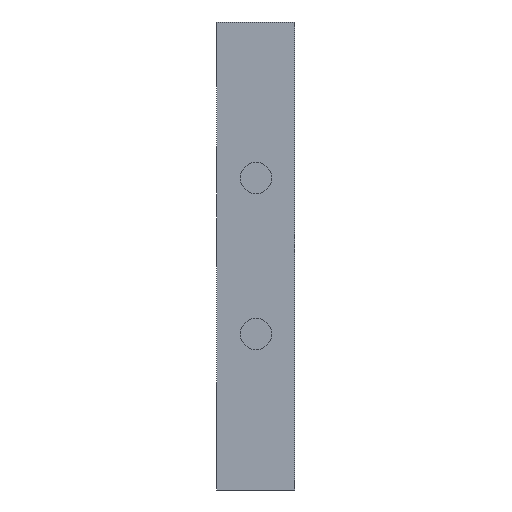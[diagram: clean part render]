
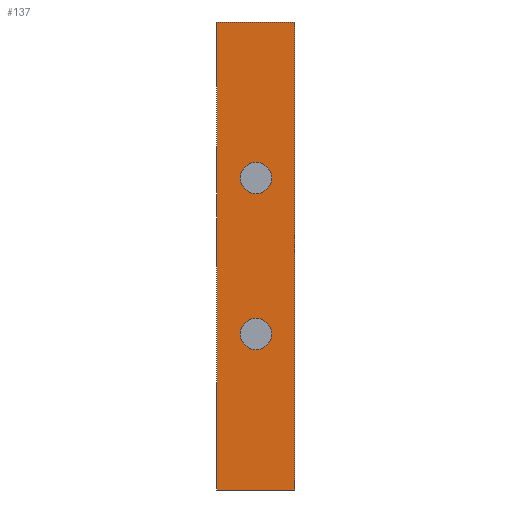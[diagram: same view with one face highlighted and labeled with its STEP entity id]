
A CAD part, front view. The second image highlights one B-rep face of the part: STEP entity #137.
In plain terms, the highlighted planar face has unit normal (0, -1, 0).
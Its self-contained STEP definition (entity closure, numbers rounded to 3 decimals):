
#21 = EDGE_CURVE('',#22,#24,#26,.T.);
#22 = VERTEX_POINT('',#23);
#23 = CARTESIAN_POINT('',(0.,0.,60.));
#24 = VERTEX_POINT('',#25);
#25 = CARTESIAN_POINT('',(10.,0.,60.));
#26 = SURFACE_CURVE('',#27,(#31,#43),.PCURVE_S1.);
#27 = LINE('',#28,#29);
#28 = CARTESIAN_POINT('',(0.,0.,60.));
#29 = VECTOR('',#30,1.);
#30 = DIRECTION('',(1.,0.,0.));
#31 = PCURVE('',#32,#37);
#32 = PLANE('',#33);
#33 = AXIS2_PLACEMENT_3D('',#34,#35,#36);
#34 = CARTESIAN_POINT('',(0.,0.,60.));
#35 = DIRECTION('',(0.,0.,1.));
#36 = DIRECTION('',(0.,1.,0.));
#37 = DEFINITIONAL_REPRESENTATION('',(#38),#42);
#38 = LINE('',#39,#40);
#39 = CARTESIAN_POINT('',(0.,0.));
#40 = VECTOR('',#41,1.);
#41 = DIRECTION('',(0.,-1.));
#42 = ( GEOMETRIC_REPRESENTATION_CONTEXT(2) 
PARAMETRIC_REPRESENTATION_CONTEXT() REPRESENTATION_CONTEXT('2D SPACE',''
  ) );
#43 = PCURVE('',#44,#49);
#44 = PLANE('',#45);
#45 = AXIS2_PLACEMENT_3D('',#46,#47,#48);
#46 = CARTESIAN_POINT('',(0.,0.,0.));
#47 = DIRECTION('',(0.,-1.,0.));
#48 = DIRECTION('',(0.,0.,1.));
#49 = DEFINITIONAL_REPRESENTATION('',(#50),#54);
#50 = LINE('',#51,#52);
#51 = CARTESIAN_POINT('',(60.,0.));
#52 = VECTOR('',#53,1.);
#53 = DIRECTION('',(0.,-1.));
#54 = ( GEOMETRIC_REPRESENTATION_CONTEXT(2) 
PARAMETRIC_REPRESENTATION_CONTEXT() REPRESENTATION_CONTEXT('2D SPACE',''
  ) );
#72 = PLANE('',#73);
#73 = AXIS2_PLACEMENT_3D('',#74,#75,#76);
#74 = CARTESIAN_POINT('',(10.,137.5,30.));
#75 = DIRECTION('',(-1.,0.,0.));
#76 = DIRECTION('',(0.,0.,-1.));
#126 = PLANE('',#127);
#127 = AXIS2_PLACEMENT_3D('',#128,#129,#130);
#128 = CARTESIAN_POINT('',(0.,137.5,30.));
#129 = DIRECTION('',(-1.,0.,0.));
#130 = DIRECTION('',(0.,0.,-1.));
#137 = ADVANCED_FACE('',(#138,#213,#244),#44,.T.);
#138 = FACE_BOUND('',#139,.T.);
#139 = EDGE_LOOP('',(#140,#170,#191,#192));
#140 = ORIENTED_EDGE('',*,*,#141,.T.);
#141 = EDGE_CURVE('',#142,#144,#146,.T.);
#142 = VERTEX_POINT('',#143);
#143 = CARTESIAN_POINT('',(0.,0.,0.));
#144 = VERTEX_POINT('',#145);
#145 = CARTESIAN_POINT('',(10.,0.,0.));
#146 = SURFACE_CURVE('',#147,(#151,#158),.PCURVE_S1.);
#147 = LINE('',#148,#149);
#148 = CARTESIAN_POINT('',(0.,0.,0.));
#149 = VECTOR('',#150,1.);
#150 = DIRECTION('',(1.,0.,0.));
#151 = PCURVE('',#44,#152);
#152 = DEFINITIONAL_REPRESENTATION('',(#153),#157);
#153 = LINE('',#154,#155);
#154 = CARTESIAN_POINT('',(0.,0.));
#155 = VECTOR('',#156,1.);
#156 = DIRECTION('',(0.,-1.));
#157 = ( GEOMETRIC_REPRESENTATION_CONTEXT(2) 
PARAMETRIC_REPRESENTATION_CONTEXT() REPRESENTATION_CONTEXT('2D SPACE',''
  ) );
#158 = PCURVE('',#159,#164);
#159 = PLANE('',#160);
#160 = AXIS2_PLACEMENT_3D('',#161,#162,#163);
#161 = CARTESIAN_POINT('',(0.,275.,0.));
#162 = DIRECTION('',(0.,0.,-1.));
#163 = DIRECTION('',(0.,-1.,0.));
#164 = DEFINITIONAL_REPRESENTATION('',(#165),#169);
#165 = LINE('',#166,#167);
#166 = CARTESIAN_POINT('',(275.,0.));
#167 = VECTOR('',#168,1.);
#168 = DIRECTION('',(0.,-1.));
#169 = ( GEOMETRIC_REPRESENTATION_CONTEXT(2) 
PARAMETRIC_REPRESENTATION_CONTEXT() REPRESENTATION_CONTEXT('2D SPACE',''
  ) );
#170 = ORIENTED_EDGE('',*,*,#171,.T.);
#171 = EDGE_CURVE('',#144,#24,#172,.T.);
#172 = SURFACE_CURVE('',#173,(#177,#184),.PCURVE_S1.);
#173 = LINE('',#174,#175);
#174 = CARTESIAN_POINT('',(10.,0.,0.));
#175 = VECTOR('',#176,1.);
#176 = DIRECTION('',(0.,0.,1.));
#177 = PCURVE('',#44,#178);
#178 = DEFINITIONAL_REPRESENTATION('',(#179),#183);
#179 = LINE('',#180,#181);
#180 = CARTESIAN_POINT('',(0.,-10.));
#181 = VECTOR('',#182,1.);
#182 = DIRECTION('',(1.,0.));
#183 = ( GEOMETRIC_REPRESENTATION_CONTEXT(2) 
PARAMETRIC_REPRESENTATION_CONTEXT() REPRESENTATION_CONTEXT('2D SPACE',''
  ) );
#184 = PCURVE('',#72,#185);
#185 = DEFINITIONAL_REPRESENTATION('',(#186),#190);
#186 = LINE('',#187,#188);
#187 = CARTESIAN_POINT('',(30.,137.5));
#188 = VECTOR('',#189,1.);
#189 = DIRECTION('',(-1.,0.));
#190 = ( GEOMETRIC_REPRESENTATION_CONTEXT(2) 
PARAMETRIC_REPRESENTATION_CONTEXT() REPRESENTATION_CONTEXT('2D SPACE',''
  ) );
#191 = ORIENTED_EDGE('',*,*,#21,.F.);
#192 = ORIENTED_EDGE('',*,*,#193,.F.);
#193 = EDGE_CURVE('',#142,#22,#194,.T.);
#194 = SURFACE_CURVE('',#195,(#199,#206),.PCURVE_S1.);
#195 = LINE('',#196,#197);
#196 = CARTESIAN_POINT('',(0.,0.,0.));
#197 = VECTOR('',#198,1.);
#198 = DIRECTION('',(0.,0.,1.));
#199 = PCURVE('',#44,#200);
#200 = DEFINITIONAL_REPRESENTATION('',(#201),#205);
#201 = LINE('',#202,#203);
#202 = CARTESIAN_POINT('',(0.,0.));
#203 = VECTOR('',#204,1.);
#204 = DIRECTION('',(1.,0.));
#205 = ( GEOMETRIC_REPRESENTATION_CONTEXT(2) 
PARAMETRIC_REPRESENTATION_CONTEXT() REPRESENTATION_CONTEXT('2D SPACE',''
  ) );
#206 = PCURVE('',#126,#207);
#207 = DEFINITIONAL_REPRESENTATION('',(#208),#212);
#208 = LINE('',#209,#210);
#209 = CARTESIAN_POINT('',(30.,137.5));
#210 = VECTOR('',#211,1.);
#211 = DIRECTION('',(-1.,0.));
#212 = ( GEOMETRIC_REPRESENTATION_CONTEXT(2) 
PARAMETRIC_REPRESENTATION_CONTEXT() REPRESENTATION_CONTEXT('2D SPACE',''
  ) );
#213 = FACE_BOUND('',#214,.T.);
#214 = EDGE_LOOP('',(#215));
#215 = ORIENTED_EDGE('',*,*,#216,.F.);
#216 = EDGE_CURVE('',#217,#217,#219,.T.);
#217 = VERTEX_POINT('',#218);
#218 = CARTESIAN_POINT('',(5.,0.,38.));
#219 = SURFACE_CURVE('',#220,(#225,#232),.PCURVE_S1.);
#220 = CIRCLE('',#221,2.);
#221 = AXIS2_PLACEMENT_3D('',#222,#223,#224);
#222 = CARTESIAN_POINT('',(5.,0.,40.));
#223 = DIRECTION('',(0.,-1.,0.));
#224 = DIRECTION('',(0.,0.,-1.));
#225 = PCURVE('',#44,#226);
#226 = DEFINITIONAL_REPRESENTATION('',(#227),#231);
#227 = CIRCLE('',#228,2.);
#228 = AXIS2_PLACEMENT_2D('',#229,#230);
#229 = CARTESIAN_POINT('',(40.,-5.));
#230 = DIRECTION('',(-1.,0.));
#231 = ( GEOMETRIC_REPRESENTATION_CONTEXT(2) 
PARAMETRIC_REPRESENTATION_CONTEXT() REPRESENTATION_CONTEXT('2D SPACE',''
  ) );
#232 = PCURVE('',#233,#238);
#233 = CYLINDRICAL_SURFACE('',#234,2.);
#234 = AXIS2_PLACEMENT_3D('',#235,#236,#237);
#235 = CARTESIAN_POINT('',(5.,0.,40.));
#236 = DIRECTION('',(0.,-1.,0.));
#237 = DIRECTION('',(0.,0.,-1.));
#238 = DEFINITIONAL_REPRESENTATION('',(#239),#243);
#239 = LINE('',#240,#241);
#240 = CARTESIAN_POINT('',(0.,0.));
#241 = VECTOR('',#242,1.);
#242 = DIRECTION('',(1.,0.));
#243 = ( GEOMETRIC_REPRESENTATION_CONTEXT(2) 
PARAMETRIC_REPRESENTATION_CONTEXT() REPRESENTATION_CONTEXT('2D SPACE',''
  ) );
#244 = FACE_BOUND('',#245,.T.);
#245 = EDGE_LOOP('',(#246));
#246 = ORIENTED_EDGE('',*,*,#247,.F.);
#247 = EDGE_CURVE('',#248,#248,#250,.T.);
#248 = VERTEX_POINT('',#249);
#249 = CARTESIAN_POINT('',(5.,0.,18.));
#250 = SURFACE_CURVE('',#251,(#256,#263),.PCURVE_S1.);
#251 = CIRCLE('',#252,2.);
#252 = AXIS2_PLACEMENT_3D('',#253,#254,#255);
#253 = CARTESIAN_POINT('',(5.,0.,20.));
#254 = DIRECTION('',(0.,-1.,0.));
#255 = DIRECTION('',(0.,0.,-1.));
#256 = PCURVE('',#44,#257);
#257 = DEFINITIONAL_REPRESENTATION('',(#258),#262);
#258 = CIRCLE('',#259,2.);
#259 = AXIS2_PLACEMENT_2D('',#260,#261);
#260 = CARTESIAN_POINT('',(20.,-5.));
#261 = DIRECTION('',(-1.,0.));
#262 = ( GEOMETRIC_REPRESENTATION_CONTEXT(2) 
PARAMETRIC_REPRESENTATION_CONTEXT() REPRESENTATION_CONTEXT('2D SPACE',''
  ) );
#263 = PCURVE('',#264,#269);
#264 = CYLINDRICAL_SURFACE('',#265,2.);
#265 = AXIS2_PLACEMENT_3D('',#266,#267,#268);
#266 = CARTESIAN_POINT('',(5.,0.,20.));
#267 = DIRECTION('',(0.,-1.,0.));
#268 = DIRECTION('',(0.,0.,-1.));
#269 = DEFINITIONAL_REPRESENTATION('',(#270),#274);
#270 = LINE('',#271,#272);
#271 = CARTESIAN_POINT('',(0.,0.));
#272 = VECTOR('',#273,1.);
#273 = DIRECTION('',(1.,0.));
#274 = ( GEOMETRIC_REPRESENTATION_CONTEXT(2) 
PARAMETRIC_REPRESENTATION_CONTEXT() REPRESENTATION_CONTEXT('2D SPACE',''
  ) );
